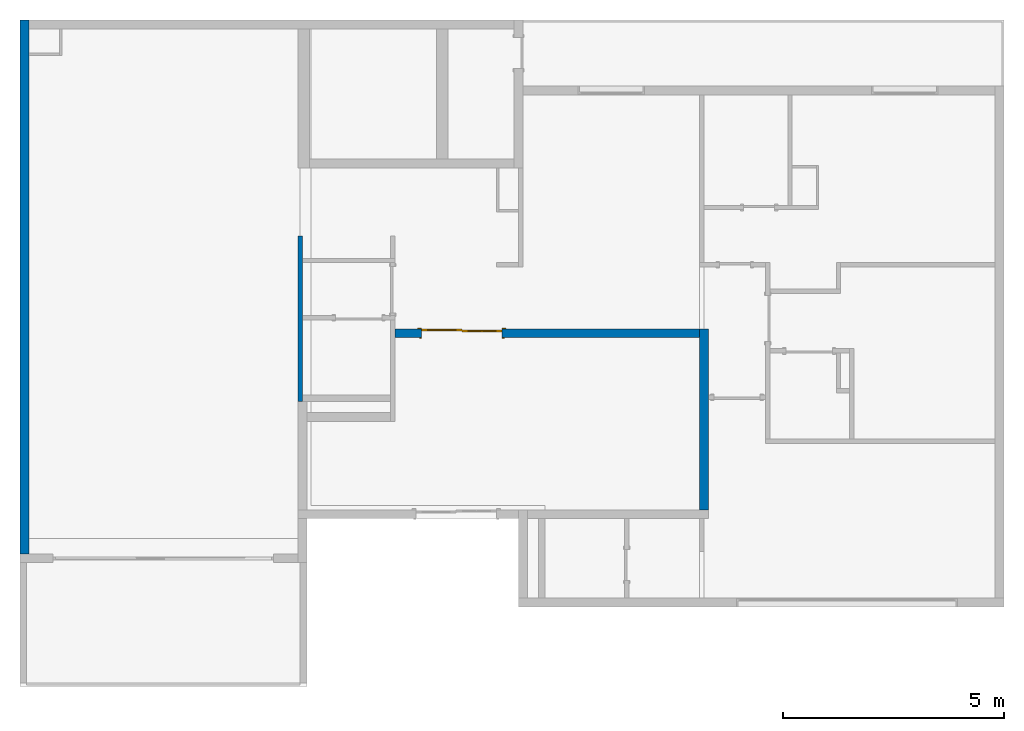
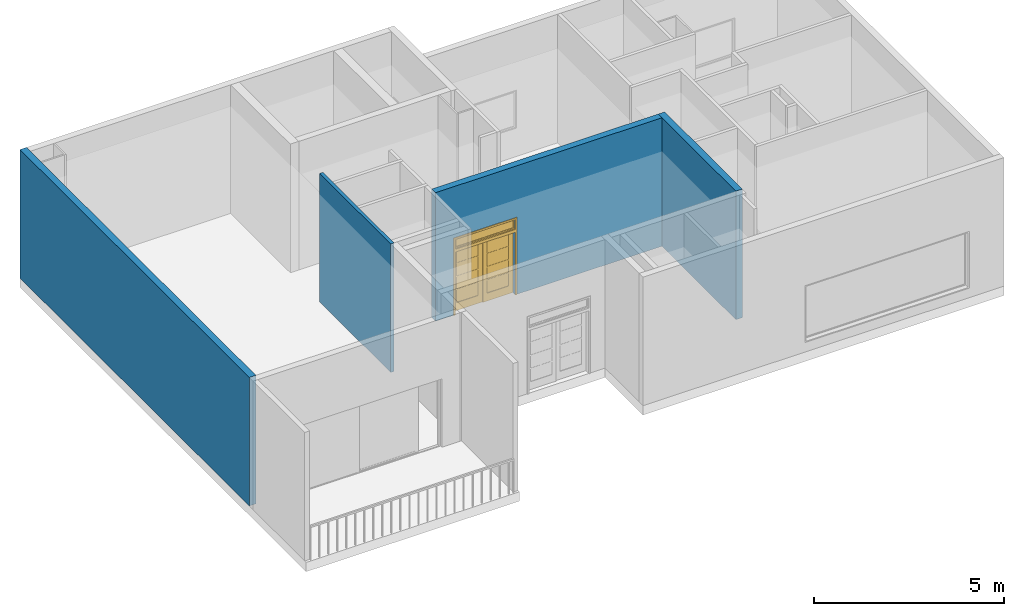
# One storey, part 4 of 8: 4 walls, 1 door, 1 opening.
"""IFC2X3 building model written with IfcOpenShell, lengths in metres."""

from ifc_helpers import new_model, entity, si_unit, converted_unit, derived_unit, direction, frame, frame_2d, origin, place, context, subcontext, project, spatial, rectangle, extrude, faceted_brep, source, transform, mapped, material, material_list, layer, layer_set, layer_usage, type_object, type_shapes, element, fill, save


model = new_model("IFC2X3")

# Units and contexts
model_context = context("Model", 3, precision=1e-05, world=origin(), true_north=direction((6.123031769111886e-17, 1.0)))
body_context = subcontext(model_context, "Body", "Model", "MODEL_VIEW")
ifc_project = project(units=[si_unit("LENGTHUNIT", "METRE"), si_unit("AREAUNIT", "SQUARE_METRE"), si_unit("VOLUMEUNIT", "CUBIC_METRE"), converted_unit("PLANEANGLEUNIT", "DEGREE", entity("IfcRatioMeasure", 0.017453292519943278), si_unit("PLANEANGLEUNIT", "RADIAN"), dimensions=[0, 0, 0, 0, 0, 0, 0]), si_unit("MASSUNIT", "GRAM", prefix="KILO"), derived_unit("MASSDENSITYUNIT", [(si_unit("MASSUNIT", "GRAM", prefix="KILO"), 1), (si_unit("LENGTHUNIT", "METRE"), -3)]), derived_unit("MOMENTOFINERTIAUNIT", [(si_unit("LENGTHUNIT", "METRE"), 4)]), si_unit("TIMEUNIT", "SECOND"), si_unit("FREQUENCYUNIT", "HERTZ"), si_unit("THERMODYNAMICTEMPERATUREUNIT", "DEGREE_CELSIUS"), derived_unit("THERMALTRANSMITTANCEUNIT", [(si_unit("MASSUNIT", "GRAM", prefix="KILO"), 1), (si_unit("THERMODYNAMICTEMPERATUREUNIT", "KELVIN"), -1), (si_unit("TIMEUNIT", "SECOND"), -3)]), derived_unit("VOLUMETRICFLOWRATEUNIT", [(si_unit("LENGTHUNIT", "METRE"), 3), (si_unit("TIMEUNIT", "SECOND"), -1)]), derived_unit("MASSFLOWRATEUNIT", [(si_unit("MASSUNIT", "GRAM", prefix="KILO"), 1), (si_unit("TIMEUNIT", "SECOND"), -1)]), derived_unit("ROTATIONALFREQUENCYUNIT", [(si_unit("TIMEUNIT", "SECOND"), -1)]), si_unit("ELECTRICCURRENTUNIT", "AMPERE"), si_unit("ELECTRICVOLTAGEUNIT", "VOLT"), si_unit("POWERUNIT", "WATT"), si_unit("FORCEUNIT", "NEWTON", prefix="KILO"), si_unit("ILLUMINANCEUNIT", "LUX"), si_unit("LUMINOUSFLUXUNIT", "LUMEN"), si_unit("LUMINOUSINTENSITYUNIT", "CANDELA"), derived_unit("USERDEFINED", [(si_unit("MASSUNIT", "GRAM", prefix="KILO"), -1), (si_unit("LENGTHUNIT", "METRE"), -2), (si_unit("TIMEUNIT", "SECOND"), 3), (si_unit("LUMINOUSFLUXUNIT", "LUMEN"), 1)]), derived_unit("SOUNDPOWERUNIT", [(si_unit("MASSUNIT", "GRAM", prefix="KILO"), 1), (si_unit("LENGTHUNIT", "METRE"), 2), (si_unit("TIMEUNIT", "SECOND"), -3)]), derived_unit("SOUNDPRESSUREUNIT", [(si_unit("MASSUNIT", "GRAM", prefix="KILO"), 1), (si_unit("LENGTHUNIT", "METRE"), -1), (si_unit("TIMEUNIT", "SECOND"), -2)]), derived_unit("LINEARVELOCITYUNIT", [(si_unit("LENGTHUNIT", "METRE"), 1), (si_unit("TIMEUNIT", "SECOND"), -1)]), si_unit("PRESSUREUNIT", "PASCAL"), derived_unit("USERDEFINED", [(si_unit("LENGTHUNIT", "METRE"), -2), (si_unit("MASSUNIT", "GRAM", prefix="KILO"), 1), (si_unit("TIMEUNIT", "SECOND"), -2)]), derived_unit("LINEARFORCEUNIT", [(si_unit("MASSUNIT", "GRAM", prefix="KILO"), 1), (si_unit("LENGTHUNIT", "METRE"), 1), (si_unit("TIMEUNIT", "SECOND"), -2), (si_unit("LENGTHUNIT", "METRE"), -1)]), derived_unit("PLANARFORCEUNIT", [(si_unit("MASSUNIT", "GRAM", prefix="KILO"), 1), (si_unit("LENGTHUNIT", "METRE"), 1), (si_unit("TIMEUNIT", "SECOND"), -2), (si_unit("LENGTHUNIT", "METRE"), -2)])], contexts=[model_context])

# Site, building, storey
site_placement = place(None, origin())
site = spatial("IfcSite", under=ifc_project, at=site_placement, Name="Default", CompositionType="ELEMENT")
building_placement = place(site_placement, origin())
building = spatial("IfcBuilding", under=site, at=building_placement, CompositionType="ELEMENT")
storey_placement = place(building_placement, frame((0.0, 0.0, 1.1999999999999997)))
storey = spatial("IfcBuildingStorey", under=building, at=storey_placement, Name="G0", CompositionType="ELEMENT", Elevation=1.1999999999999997)

# Walls
ifc_material_1 = material(Name="Masonry - Concrete Block")
ifc_layer_1 = layer(ifc_material_1, 0.2)
ifc_layer_set_1 = layer_set([ifc_layer_1], Name="Basic Wall:CW 200")
ifc_layer_usage_1 = layer_usage(ifc_layer_set_1, "AXIS2", "NEGATIVE", 0.1)
wall_type_1 = type_object("IfcWallType", Name="Basic Wall:CW 200", PredefinedType="STANDARD", material=ifc_layer_set_1)
wall_1_placement = place(storey_placement, frame((22.107683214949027, -5.102309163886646, 0.0), z_axis=(0.0, 0.0, 1.0), x_axis=(0.0, 1.0, 0.0)))
element("IfcWallStandardCase", 1, at=wall_1_placement, inside=storey, type_object=wall_type_1, material=ifc_layer_usage_1, Name="Basic Wall:CW 200", ObjectType="Basic Wall:CW 200", context=body_context, shape_type="SweptSolid", body=[
    extrude(rectangle(XDim=4.100000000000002, YDim=0.19999999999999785, at=frame_2d((2.050000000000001, -2.0122792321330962e-16), x_axis=(-1.0, 0.0))), origin(), (0.0, 0.0, 1.0), 4.139999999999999),
])
ifc_layer_usage_2 = layer_usage(ifc_layer_set_1, "AXIS2", "NEGATIVE", 0.1)
wall_2_placement = place(storey_placement, frame((6.70768321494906, -6.102309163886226, 0.0), z_axis=(0.0, 0.0, 1.0), x_axis=(0.0, 1.0, 0.0)))
element("IfcWallStandardCase", 2, at=wall_2_placement, inside=storey, type_object=wall_type_1, material=ifc_layer_usage_2, Name="Basic Wall:CW 200", ObjectType="Basic Wall:CW 200", context=body_context, shape_type="SweptSolid", body=[
    extrude(rectangle(XDim=12.099999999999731, YDim=0.2, at=frame_2d((6.049999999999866, 1.5959455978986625e-16), x_axis=(-1.0, 0.0))), origin(), (0.0, 0.0, 1.0), 4.139999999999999),
])

# Wall, opening, door
ifc_layer_usage_3 = layer_usage(ifc_layer_set_1, "AXIS2", "NEGATIVE", 0.1)
wall_3_placement = place(storey_placement, frame((22.00768321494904, -1.102309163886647, 0.0), z_axis=(0.0, 0.0, 1.0), x_axis=(-1.0, 0.0, 0.0)))
wall_3 = element("IfcWallStandardCase", 3, at=wall_3_placement, inside=storey, type_object=wall_type_1, material=ifc_layer_usage_3, Name="Basic Wall:CW 200", ObjectType="Basic Wall:CW 200", context=body_context, shape_type="SweptSolid", body=[
    extrude(rectangle(XDim=6.899999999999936, YDim=0.2, at=frame_2d((3.449999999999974, 6.938893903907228e-17), x_axis=(1.0, 0.0))), origin(), (0.0, 0.0, 1.0), 4.139999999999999),
])
opening_placement = place(wall_3_placement, frame((6.299999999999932, 0.10000000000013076, 0.0)))
opening = element("IfcOpeningElement", 4, at=opening_placement, cuts=wall_3, Name="Double_8_lite_patio_door_5282:36x2\" x 80\" w/transom\":1", ObjectType="Opening", context=body_context, shape_type="SweptSolid", body=[
    extrude(rectangle(XDim=1.8287999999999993, YDim=2.4384000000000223, at=frame_2d((1.2192000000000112, 0.9144000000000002), x_axis=(0.0, 1.0))), frame((0.0, 0.0, 0.0), z_axis=(0.0, -1.0, 0.0), x_axis=(0.0, 0.0, 1.0)), (0.0, 0.0, 1.0), 0.2),
])
ifc_material_2 = material(Name="<Unnamed>")
ifc_material_3 = material(Name="Door - Panel")
ifc_material_4 = material(Name="Glazing - Window Glazing")
ifc_material_5 = material(Name="Finishes - Exterior - Trim")
ifc_material_6 = material(Name="Finishes - Interior - Trim")
ifc_material_list_1 = material_list([ifc_material_2, ifc_material_3, ifc_material_4, ifc_material_5, ifc_material_6])
ifc_material_list_2 = material_list([ifc_material_2, ifc_material_3, ifc_material_3, ifc_material_4, ifc_material_3, ifc_material_3, ifc_material_3, ifc_material_4, ifc_material_3, ifc_material_5, ifc_material_4, ifc_material_3, ifc_material_3, ifc_material_5, ifc_material_5, ifc_material_5, ifc_material_6])
door_style = type_object("IfcDoorStyle", Name="Double_8_lite_patio_door_5282:36x2\" x 80\" w/transom\"", ConstructionType="NOTDEFINED", OperationType="NOTDEFINED", ParameterTakesPrecedence=False, Sizeable=False, material=ifc_material_list_2)
shared_shape = source(origin(), body_context, "Body", "Brep", [
    faceted_brep([(0.1524000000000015, 0.2000000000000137, 2.0319999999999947), (1.9812000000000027, 0.20000000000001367, 2.0319999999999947), (1.9812000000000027, 0.0, 2.0319999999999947), (0.1524000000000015, 0.0, 2.0319999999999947), (0.1524000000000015, 0.2000000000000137, 2.120899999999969), (0.1524000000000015, 0.0, 2.120899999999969), (1.9812000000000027, 0.0, 2.120899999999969), (1.9812000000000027, 0.20000000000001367, 2.120899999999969)], [[[0, 1, 2, 3]], [[4, 5, 6, 7]], [[3, 5, 4, 0]], [[2, 6, 5, 3]], [[1, 7, 6, 2]], [[0, 4, 7, 1]]]),
    faceted_brep([(0.5969000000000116, 0.1666750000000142, 2.1589999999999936), (0.5969000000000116, 0.1666750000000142, 2.40030000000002), (0.6223000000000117, 0.1666750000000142, 2.40030000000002), (0.6223000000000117, 0.1666750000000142, 2.1589999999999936), (0.5969000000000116, 0.1349250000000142, 2.1589999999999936), (0.6223000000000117, 0.1349250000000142, 2.1589999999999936), (0.6223000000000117, 0.1349250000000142, 2.40030000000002), (0.5969000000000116, 0.1349250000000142, 2.40030000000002)], [[[0, 1, 2, 3]], [[4, 5, 6, 7]], [[3, 5, 4, 0]], [[2, 6, 5, 3]], [[1, 7, 6, 2]], [[0, 4, 7, 1]]]),
    faceted_brep([(1.5112999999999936, 0.1666750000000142, 2.15899999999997), (1.5112999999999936, 0.1666750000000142, 2.4002999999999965), (1.536699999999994, 0.1666750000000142, 2.4002999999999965), (1.536699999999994, 0.1666750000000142, 2.15899999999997), (1.5112999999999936, 0.1349250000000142, 2.15899999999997), (1.536699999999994, 0.1349250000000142, 2.15899999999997), (1.536699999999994, 0.1349250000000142, 2.4002999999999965), (1.5112999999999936, 0.1349250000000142, 2.4002999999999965)], [[[0, 1, 2, 3]], [[4, 5, 6, 7]], [[3, 5, 4, 0]], [[2, 6, 5, 3]], [[1, 7, 6, 2]], [[0, 4, 7, 1]]]),
    faceted_brep([(0.9652000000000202, 0.058725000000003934, 1.93040000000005), (0.9651999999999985, 0.058725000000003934, 0.25400000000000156), (0.2286000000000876, 0.058725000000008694, 0.2540000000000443), (0.2286000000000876, 0.058725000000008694, 1.93040000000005), (0.9652000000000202, 0.03967500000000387, 1.93040000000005), (0.22860000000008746, 0.03967500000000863, 1.93040000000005), (0.22860000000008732, 0.03967500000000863, 0.2540000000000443), (0.9651999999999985, 0.03967500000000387, 0.25400000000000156)], [[[0, 1, 2, 3]], [[4, 5, 6, 7]], [[3, 5, 4, 0]], [[2, 6, 5, 3]], [[1, 7, 6, 2]], [[0, 4, 7, 1]]]),
    faceted_brep([(0.5969000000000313, 0.06507500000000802, 0.6794500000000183), (0.5969000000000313, 0.06507500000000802, 1.0795000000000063), (0.2794000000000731, 0.06507500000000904, 1.0795000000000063), (0.2794000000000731, 0.06507500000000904, 1.1049000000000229), (0.5969000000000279, 0.06507500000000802, 1.1049000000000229), (0.5969000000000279, 0.06507500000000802, 1.5049500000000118), (0.2794000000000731, 0.06507500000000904, 1.5049500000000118), (0.2794000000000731, 0.06507500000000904, 1.5303500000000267), (0.596900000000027, 0.06507500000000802, 1.5303500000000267), (0.596900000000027, 0.06507500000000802, 1.9304000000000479), (0.622300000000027, 0.06507500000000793, 1.9304000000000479), (0.622300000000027, 0.06507500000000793, 1.5303500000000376), (0.9397999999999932, 0.06507500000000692, 1.5303500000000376), (0.9397999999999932, 0.06507500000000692, 1.5049500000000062), (0.6223000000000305, 0.06507500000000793, 1.5049500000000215), (0.6223000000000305, 0.06507500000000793, 1.1049000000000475), (0.9397999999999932, 0.06507500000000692, 1.1049000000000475), (0.9397999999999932, 0.06507500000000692, 1.0795000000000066), (0.6223000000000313, 0.06507500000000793, 1.0795000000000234), (0.6223000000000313, 0.06507500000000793, 0.6794500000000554), (0.9397999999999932, 0.06507500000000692, 0.6794500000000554), (0.9397999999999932, 0.06507500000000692, 0.6540499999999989), (0.6223000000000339, 0.06507500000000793, 0.6540500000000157), (0.6223000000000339, 0.06507500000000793, 0.25400000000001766), (0.5969000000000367, 0.06507500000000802, 0.25400000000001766), (0.5969000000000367, 0.06507500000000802, 0.6540500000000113), (0.2794000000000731, 0.06507500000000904, 0.6540500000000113), (0.2794000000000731, 0.06507500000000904, 0.6794500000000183), (0.5969000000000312, 0.033325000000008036, 0.6794500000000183), (0.2794000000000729, 0.033325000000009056, 0.6794500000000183), (0.2794000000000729, 0.033325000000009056, 0.6540500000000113), (0.5969000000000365, 0.033325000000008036, 0.6540500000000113), (0.5969000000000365, 0.033325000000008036, 0.25400000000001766), (0.6223000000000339, 0.033325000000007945, 0.25400000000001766), (0.6223000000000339, 0.033325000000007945, 0.6540500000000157), (0.9397999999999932, 0.03332500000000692, 0.6540499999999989), (0.9397999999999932, 0.03332500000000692, 0.6794500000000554), (0.6223000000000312, 0.033325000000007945, 0.6794500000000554), (0.6223000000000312, 0.033325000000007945, 1.0795000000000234), (0.9397999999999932, 0.03332500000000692, 1.0795000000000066), (0.9397999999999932, 0.03332500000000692, 1.1049000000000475), (0.6223000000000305, 0.033325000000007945, 1.1049000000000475), (0.6223000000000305, 0.033325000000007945, 1.5049500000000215), (0.9397999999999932, 0.03332500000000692, 1.5049500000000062), (0.9397999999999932, 0.03332500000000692, 1.5303500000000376), (0.6223000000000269, 0.033325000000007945, 1.5303500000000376), (0.6223000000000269, 0.033325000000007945, 1.9304000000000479), (0.5969000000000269, 0.033325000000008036, 1.9304000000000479), (0.596900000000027, 0.033325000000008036, 1.5303500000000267), (0.2794000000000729, 0.033325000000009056, 1.5303500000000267), (0.2794000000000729, 0.033325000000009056, 1.5049500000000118), (0.5969000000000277, 0.033325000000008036, 1.5049500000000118), (0.5969000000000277, 0.033325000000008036, 1.1049000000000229), (0.2794000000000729, 0.033325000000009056, 1.1049000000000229), (0.2794000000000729, 0.033325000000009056, 1.0795000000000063), (0.5969000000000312, 0.033325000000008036, 1.0795000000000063)], [[[0, 1, 2, 3, 4, 5, 6, 7, 8, 9, 10, 11, 12, 13, 14, 15, 16, 17, 18, 19, 20, 21, 22, 23, 24, 25, 26, 27]], [[28, 29, 30, 31, 32, 33, 34, 35, 36, 37, 38, 39, 40, 41, 42, 43, 44, 45, 46, 47, 48, 49, 50, 51, 52, 53, 54, 55]], [[27, 29, 28, 0]], [[26, 30, 29, 27]], [[25, 31, 30, 26]], [[24, 32, 31, 25]], [[23, 33, 32, 24]], [[22, 34, 33, 23]], [[21, 35, 34, 22]], [[20, 36, 35, 21]], [[19, 37, 36, 20]], [[18, 38, 37, 19]], [[17, 39, 38, 18]], [[16, 40, 39, 17]], [[15, 41, 40, 16]], [[14, 42, 41, 15]], [[13, 43, 42, 14]], [[12, 44, 43, 13]], [[11, 45, 44, 12]], [[10, 46, 45, 11]], [[9, 47, 46, 10]], [[8, 48, 47, 9]], [[7, 49, 48, 8]], [[6, 50, 49, 7]], [[5, 51, 50, 6]], [[4, 52, 51, 5]], [[3, 53, 52, 4]], [[2, 54, 53, 3]], [[1, 55, 54, 2]], [[0, 28, 55, 1]]]),
    faceted_brep([(1.0668000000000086, 0.0746000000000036, 2.032000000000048), (1.0668000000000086, 0.0746000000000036, 0.0), (0.152400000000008, 0.0746000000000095, 0.0), (0.152400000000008, 0.0746000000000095, 2.032000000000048), (0.9398000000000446, 0.07460000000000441, 1.9304000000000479), (0.2794000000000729, 0.07460000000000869, 1.9304000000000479), (0.2794000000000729, 0.07460000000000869, 0.25400000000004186), (0.9397999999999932, 0.07460000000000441, 0.25400000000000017), (1.0668000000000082, 0.023800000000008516, 2.032000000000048), (0.15240000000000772, 0.02380000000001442, 2.032000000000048), (0.15240000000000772, 0.02380000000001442, 0.0), (1.0668000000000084, 0.023800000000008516, 0.0), (0.9398000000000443, 0.023800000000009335, 1.9304000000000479), (0.9397999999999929, 0.023800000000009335, 0.25400000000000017), (0.27940000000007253, 0.0238000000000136, 0.25400000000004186), (0.27940000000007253, 0.0238000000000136, 1.9304000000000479)], [[[0, 1, 2, 3], [4, 5, 6, 7]], [[8, 9, 10, 11], [12, 13, 14, 15]], [[3, 9, 8, 0]], [[2, 10, 9, 3]], [[1, 11, 10, 2]], [[0, 8, 11, 1]], [[7, 13, 12, 4]], [[6, 14, 13, 7]], [[5, 15, 14, 6]], [[4, 12, 15, 5]]]),
    faceted_brep([(1.5366999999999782, 0.04127500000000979, 0.6794500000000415), (1.854199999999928, 0.04127500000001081, 0.6794500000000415), (1.854199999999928, 0.04127500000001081, 0.6540499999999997), (1.5366999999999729, 0.04127500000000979, 0.6540499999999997), (1.5366999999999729, 0.04127500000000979, 0.2540000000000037), (1.5112999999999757, 0.0412750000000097, 0.2540000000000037), (1.5112999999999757, 0.0412750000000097, 0.6540500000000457), (1.1938000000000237, 0.04127500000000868, 0.6540500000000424), (1.1938000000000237, 0.04127500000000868, 0.6794500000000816), (1.5112999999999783, 0.0412750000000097, 0.6794500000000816), (1.5112999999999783, 0.0412750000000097, 1.079500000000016), (1.1938000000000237, 0.04127500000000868, 1.07950000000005), (1.1938000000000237, 0.04127500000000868, 1.1049000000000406), (1.5112999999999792, 0.0412750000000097, 1.1049000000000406), (1.5112999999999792, 0.0412750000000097, 1.5049500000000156), (1.1938000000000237, 0.04127500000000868, 1.50495000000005), (1.1938000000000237, 0.04127500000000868, 1.5303500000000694), (1.5112999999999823, 0.0412750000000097, 1.5303500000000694), (1.5112999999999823, 0.0412750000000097, 1.9304000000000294), (1.5366999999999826, 0.04127500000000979, 1.9304000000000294), (1.5366999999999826, 0.04127500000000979, 1.5303500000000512), (1.854199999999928, 0.04127500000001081, 1.5303500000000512), (1.854199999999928, 0.04127500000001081, 1.5049499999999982), (1.5366999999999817, 0.04127500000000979, 1.5049499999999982), (1.5366999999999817, 0.04127500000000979, 1.104900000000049), (1.854199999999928, 0.04127500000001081, 1.104900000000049), (1.854199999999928, 0.04127500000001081, 1.079499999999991), (1.5366999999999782, 0.04127500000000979, 1.079499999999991), (1.5366999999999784, 0.009525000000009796, 0.6794500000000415), (1.5366999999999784, 0.009525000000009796, 1.079499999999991), (1.8541999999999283, 0.009525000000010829, 1.079499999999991), (1.8541999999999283, 0.009525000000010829, 1.104900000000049), (1.536699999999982, 0.009525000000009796, 1.104900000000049), (1.536699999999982, 0.009525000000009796, 1.5049499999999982), (1.8541999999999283, 0.009525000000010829, 1.5049499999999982), (1.8541999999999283, 0.009525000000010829, 1.5303500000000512), (1.5366999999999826, 0.009525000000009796, 1.5303500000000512), (1.5366999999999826, 0.009525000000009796, 1.9304000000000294), (1.5112999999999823, 0.009525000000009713, 1.9304000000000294), (1.5112999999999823, 0.009525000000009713, 1.5303500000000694), (1.193800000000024, 0.009525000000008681, 1.5303500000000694), (1.193800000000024, 0.009525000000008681, 1.50495000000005), (1.5112999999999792, 0.009525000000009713, 1.5049500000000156), (1.5112999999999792, 0.009525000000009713, 1.1049000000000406), (1.193800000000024, 0.009525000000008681, 1.1049000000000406), (1.193800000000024, 0.009525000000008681, 1.07950000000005), (1.5112999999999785, 0.009525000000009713, 1.079500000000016), (1.5112999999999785, 0.009525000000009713, 0.6794500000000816), (1.193800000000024, 0.009525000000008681, 0.6794500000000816), (1.193800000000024, 0.009525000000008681, 0.6540500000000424), (1.5112999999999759, 0.009525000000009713, 0.6540500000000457), (1.5112999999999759, 0.009525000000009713, 0.2540000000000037), (1.536699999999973, 0.009525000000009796, 0.2540000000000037), (1.536699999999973, 0.009525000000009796, 0.6540499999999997), (1.8541999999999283, 0.009525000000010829, 0.6540499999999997), (1.8541999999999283, 0.009525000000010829, 0.6794500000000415)], [[[0, 1, 2, 3, 4, 5, 6, 7, 8, 9, 10, 11, 12, 13, 14, 15, 16, 17, 18, 19, 20, 21, 22, 23, 24, 25, 26, 27]], [[28, 29, 30, 31, 32, 33, 34, 35, 36, 37, 38, 39, 40, 41, 42, 43, 44, 45, 46, 47, 48, 49, 50, 51, 52, 53, 54, 55]], [[27, 29, 28, 0]], [[26, 30, 29, 27]], [[25, 31, 30, 26]], [[24, 32, 31, 25]], [[23, 33, 32, 24]], [[22, 34, 33, 23]], [[21, 35, 34, 22]], [[20, 36, 35, 21]], [[19, 37, 36, 20]], [[18, 38, 37, 19]], [[17, 39, 38, 18]], [[16, 40, 39, 17]], [[15, 41, 40, 16]], [[14, 42, 41, 15]], [[13, 43, 42, 14]], [[12, 44, 43, 13]], [[11, 45, 44, 12]], [[10, 46, 45, 11]], [[9, 47, 46, 10]], [[8, 48, 47, 9]], [[7, 49, 48, 8]], [[6, 50, 49, 7]], [[5, 51, 50, 6]], [[4, 52, 51, 5]], [[3, 53, 52, 4]], [[2, 54, 53, 3]], [[1, 55, 54, 2]], [[0, 28, 55, 1]]]),
    faceted_brep([(1.168399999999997, 0.03492500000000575, 1.9304000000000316), (1.904999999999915, 0.03492500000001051, 1.9304000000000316), (1.904999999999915, 0.03492500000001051, 0.2540000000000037), (1.1684000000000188, 0.03492500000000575, 0.25400000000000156), (1.1683999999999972, 0.01587500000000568, 1.9304000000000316), (1.1684000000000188, 0.01587500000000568, 0.25400000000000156), (1.9049999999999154, 0.015875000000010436, 0.2540000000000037), (1.9049999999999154, 0.015875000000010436, 1.9304000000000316)], [[[0, 1, 2, 3]], [[4, 5, 6, 7]], [[3, 5, 4, 0]], [[2, 6, 5, 3]], [[1, 7, 6, 2]], [[0, 4, 7, 1]]]),
    faceted_brep([(1.0668000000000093, 0.05080000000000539, 2.032000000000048), (1.9812000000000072, 0.050800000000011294, 2.032000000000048), (1.9812000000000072, 0.050800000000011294, 0.0), (1.0668000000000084, 0.05080000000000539, 0.0), (1.1938000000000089, 0.05080000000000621, 1.9304000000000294), (1.1938000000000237, 0.05080000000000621, 0.25400000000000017), (1.8541999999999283, 0.050800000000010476, 0.2540000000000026), (1.8541999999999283, 0.050800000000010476, 1.9304000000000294), (1.0668000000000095, 0.0, 2.032000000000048), (1.0668000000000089, 0.0, 0.0), (1.9812000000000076, 0.0, 0.0), (1.9812000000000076, 0.0, 2.032000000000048), (1.1938000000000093, 0.0, 1.9304000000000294), (1.8541999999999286, 0.0, 1.9304000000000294), (1.8541999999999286, 0.0, 0.2540000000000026), (1.1938000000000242, 0.0, 0.25400000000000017)], [[[0, 1, 2, 3], [4, 5, 6, 7]], [[8, 9, 10, 11], [12, 13, 14, 15]], [[3, 9, 8, 0]], [[2, 10, 9, 3]], [[1, 11, 10, 2]], [[0, 8, 11, 1]], [[7, 13, 12, 4]], [[6, 14, 13, 7]], [[5, 15, 14, 6]], [[4, 12, 15, 5]]]),
    faceted_brep([(2.070099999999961, 0.0, 2.438400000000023), (0.06349999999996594, 0.0, 2.4384000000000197), (0.06349999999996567, 0.0, 2.5781000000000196), (0.03809999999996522, 0.0, 2.60350000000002), (0.03809999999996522, 0.0, 2.6162000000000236), (2.0954999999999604, 0.0, 2.6162000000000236), (2.0954999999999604, 0.0, 2.603500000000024), (2.0700999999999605, 0.0, 2.5781000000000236), (2.070099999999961, -0.02539999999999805, 2.438400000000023), (0.06349999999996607, -0.025400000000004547, 2.4384000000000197), (2.0700999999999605, -0.02539999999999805, 2.5781000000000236), (2.0954999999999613, -0.0507999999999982, 2.603500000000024), (2.0954999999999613, -0.0507999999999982, 2.6162000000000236), (0.03809999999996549, -0.05080000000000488, 2.6162000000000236), (0.06349999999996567, -0.025400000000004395, 2.5781000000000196), (0.03809999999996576, -0.050800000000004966, 2.60350000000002)], [[[0, 1, 2, 3, 4, 5, 6, 7]], [[0, 8, 9, 1]], [[7, 10, 8, 0]], [[6, 11, 10, 7]], [[5, 12, 11, 6]], [[4, 13, 12, 5]], [[10, 14, 9, 8]], [[11, 15, 14, 10]], [[12, 13, 15, 11]], [[14, 2, 1, 9]], [[15, 3, 2, 14]], [[13, 4, 3, 15]]]),
    faceted_brep([(0.190499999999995, 0.14127500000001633, 2.4003000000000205), (0.190499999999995, 0.14127500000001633, 2.1589999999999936), (1.948433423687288, 0.14127500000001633, 2.1589999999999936), (1.948433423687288, 0.14127500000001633, 2.4003000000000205), (0.190499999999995, 0.1603250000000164, 2.4003000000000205), (1.948433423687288, 0.1603250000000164, 2.4003000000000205), (1.948433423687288, 0.1603250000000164, 2.1589999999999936), (0.190499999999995, 0.1603250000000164, 2.1589999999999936)], [[[0, 1, 2, 3]], [[4, 5, 6, 7]], [[3, 5, 4, 0]], [[2, 6, 5, 3]], [[1, 7, 6, 2]], [[0, 4, 7, 1]]]),
    faceted_brep([(0.1470665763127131, 0.12540000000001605, 2.4383999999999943), (0.1470665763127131, 0.12540000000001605, 2.1208999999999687), (1.981200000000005, 0.12540000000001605, 2.1208999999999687), (1.981200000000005, 0.12540000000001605, 2.4383999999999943), (0.190499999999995, 0.12540000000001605, 2.400299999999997), (1.9430999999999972, 0.12540000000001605, 2.400299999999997), (1.943099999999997, 0.12540000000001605, 2.158999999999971), (0.19049999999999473, 0.12540000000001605, 2.158999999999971), (0.1470665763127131, 0.1762000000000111, 2.4383999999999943), (1.981200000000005, 0.1762000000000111, 2.4383999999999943), (1.981200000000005, 0.1762000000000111, 2.1208999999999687), (0.1470665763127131, 0.1762000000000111, 2.1208999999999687), (0.190499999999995, 0.1762000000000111, 2.400299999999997), (0.19049999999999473, 0.1762000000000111, 2.158999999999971), (1.943099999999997, 0.1762000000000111, 2.158999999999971), (1.9430999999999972, 0.1762000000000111, 2.400299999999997)], [[[0, 1, 2, 3], [4, 5, 6, 7]], [[8, 9, 10, 11], [12, 13, 14, 15]], [[3, 9, 8, 0]], [[2, 10, 9, 3]], [[1, 11, 10, 2]], [[0, 8, 11, 1]], [[7, 13, 12, 4]], [[6, 14, 13, 7]], [[5, 15, 14, 6]], [[4, 12, 15, 5]]]),
    faceted_brep([(1.0541000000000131, 0.1666750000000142, 2.158999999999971), (1.0541000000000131, 0.1666750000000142, 2.4002999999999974), (1.0795000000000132, 0.1666750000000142, 2.4002999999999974), (1.0795000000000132, 0.1666750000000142, 2.158999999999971), (1.0541000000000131, 0.1349250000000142, 2.158999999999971), (1.0795000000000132, 0.1349250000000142, 2.158999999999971), (1.0795000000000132, 0.1349250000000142, 2.4002999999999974), (1.0541000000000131, 0.1349250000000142, 2.4002999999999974)], [[[0, 1, 2, 3]], [[4, 5, 6, 7]], [[3, 5, 4, 0]], [[2, 6, 5, 3]], [[1, 7, 6, 2]], [[0, 4, 7, 1]]]),
    faceted_brep([(0.15240000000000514, 0.0, 2.1208999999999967), (0.15240000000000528, 0.0, 2.0320000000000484), (0.15240000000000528, -0.025399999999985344, 2.0320000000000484), (0.15240000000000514, -0.025399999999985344, 2.1208999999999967), (1.9812000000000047, 0.0, 2.1209000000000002), (1.9812000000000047, -0.025399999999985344, 2.1209000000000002), (1.981200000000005, -0.025399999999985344, 2.0320000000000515), (1.981200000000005, 0.0, 2.0320000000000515)], [[[0, 1, 2, 3]], [[4, 5, 6, 7]], [[3, 5, 4, 0]], [[2, 6, 5, 3]], [[1, 7, 6, 2]], [[0, 4, 7, 1]]]),
    faceted_brep([(0.1524000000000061, 0.0, 0.0), (0.1524000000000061, -0.02539999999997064, 0.0), (0.06350000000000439, -0.02539999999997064, 0.0), (0.06350000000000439, 0.0, 0.0), (0.1524000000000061, 0.0, 2.4384000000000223), (0.06350000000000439, 0.0, 2.4384000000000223), (0.06350000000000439, -0.02539999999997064, 2.4384000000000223), (0.1524000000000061, -0.02539999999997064, 2.4384000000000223)], [[[0, 1, 2, 3]], [[4, 0, 3, 5]], [[5, 3, 2, 6]], [[6, 2, 1, 7]], [[7, 1, 0, 4]], [[4, 5, 6, 7]]]),
    faceted_brep([(2.0701000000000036, 0.0, 0.0), (2.0701000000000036, -0.025399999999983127, 0.0), (1.981200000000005, -0.025399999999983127, 0.0), (1.981200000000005, 0.0, 0.0), (2.0701000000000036, 0.0, 2.4384000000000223), (1.981200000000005, 0.0, 2.4384000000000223), (1.981200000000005, -0.025399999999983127, 2.4384000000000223), (2.0701000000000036, -0.025399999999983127, 2.4384000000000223)], [[[0, 1, 2, 3]], [[4, 0, 3, 5]], [[5, 3, 2, 6]], [[6, 2, 1, 7]], [[7, 1, 0, 4]], [[4, 5, 6, 7]]]),
    faceted_brep([(1.9812000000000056, 0.21905000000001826, 0.0), (2.0319999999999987, 0.21905000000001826, 0.0), (2.0319999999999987, 0.20000000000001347, 0.0), (1.9812000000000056, 0.20000000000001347, 0.0), (1.9812000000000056, 0.21905000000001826, 2.4384000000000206), (1.9812000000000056, 0.21905000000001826, 2.1208999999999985), (1.9812000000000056, 0.20000000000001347, 2.1208999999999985), (1.9812000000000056, 0.20000000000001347, 2.4383999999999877), (2.032000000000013, 0.20000000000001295, 2.4892000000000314), (0.10160000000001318, 0.20000000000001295, 2.4892000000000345), (0.10160000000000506, 0.20000000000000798, 0.0), (0.15240000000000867, 0.20000000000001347, 0.0), (0.15240000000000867, 0.20000000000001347, 2.0320000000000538), (1.9812000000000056, 0.20000000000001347, 2.0320000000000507), (0.15240000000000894, 0.20000000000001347, 2.438399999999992), (0.15240000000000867, 0.20000000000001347, 2.120900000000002), (2.0319999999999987, 0.21905000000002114, 2.4892000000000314), (1.9812000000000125, 0.21905000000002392, 2.0320000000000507), (0.1524000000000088, 0.2190500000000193, 2.0320000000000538), (0.1524000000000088, 0.2190500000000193, 0.0), (0.10160000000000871, 0.2190500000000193, 0.0), (0.10160000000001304, 0.21905000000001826, 2.4892000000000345), (0.1524000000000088, 0.2190500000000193, 2.4384000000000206), (0.15240000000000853, 0.21905000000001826, 2.120900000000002)], [[[0, 1, 2, 3]], [[4, 5, 6, 7]], [[2, 8, 9, 10, 11, 12, 13, 3], [14, 7, 6, 15]], [[1, 16, 8, 2]], [[0, 17, 18, 19, 20, 21, 16, 1], [4, 22, 23, 5]], [[20, 10, 9, 21]], [[19, 11, 10, 20]], [[14, 15, 23, 22]], [[7, 14, 22, 4]], [[16, 21, 9, 8]], [[12, 18, 17, 13]], [[6, 5, 23, 15]], [[19, 18, 12, 11]], [[3, 13, 17, 0]]]),
])
type_shapes(door_style, [shared_shape])
door_placement = place(opening_placement, frame((-1.9812000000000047, -0.20000000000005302, 0.0)))
door = element("IfcDoor", 5, at=door_placement, inside=storey, type_object=door_style, material=ifc_material_list_1, Name="Double_8_lite_patio_door_5282:36x2\" x 80\" w/transom\"", ObjectType="Double_8_lite_patio_door_5282:36x2\" x 80\" w/transom\"", OverallHeight=2.4384000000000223, OverallWidth=1.8288000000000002, context=body_context, shape_type="MappedRepresentation", body=[
    mapped(shared_shape, transform((0.0, 0.0, 0.0), scale=1.0)),
])
fill(opening, door)

# Wall
ifc_layer_2 = layer(ifc_material_1, 0.1)
ifc_layer_set_2 = layer_set([ifc_layer_2], Name="Basic Wall:CW 100")
ifc_layer_usage_4 = layer_usage(ifc_layer_set_2, "AXIS2", "NEGATIVE", 0.05)
wall_type_2 = type_object("IfcWallType", Name="Basic Wall:CW 100", PredefinedType="STANDARD", material=ifc_layer_set_2)
wall_4_placement = place(storey_placement, frame((12.957683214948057, 1.097690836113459, 0.0), z_axis=(0.0, 0.0, 1.0), x_axis=(0.0, -1.0, 0.0)))
element("IfcWallStandardCase", 6, at=wall_4_placement, inside=storey, type_object=wall_type_2, material=ifc_layer_usage_4, Name="Basic Wall:CW 100", ObjectType="Basic Wall:CW 100", context=body_context, shape_type="SweptSolid", body=[
    extrude(rectangle(XDim=3.7500000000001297, YDim=0.09999999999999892, at=frame_2d((1.8750000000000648, 0.0), x_axis=(-1.0, 0.0))), origin(), (0.0, 0.0, 1.0), 4.139999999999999),
])

save(model, "model.ifc")
